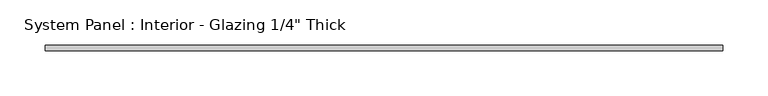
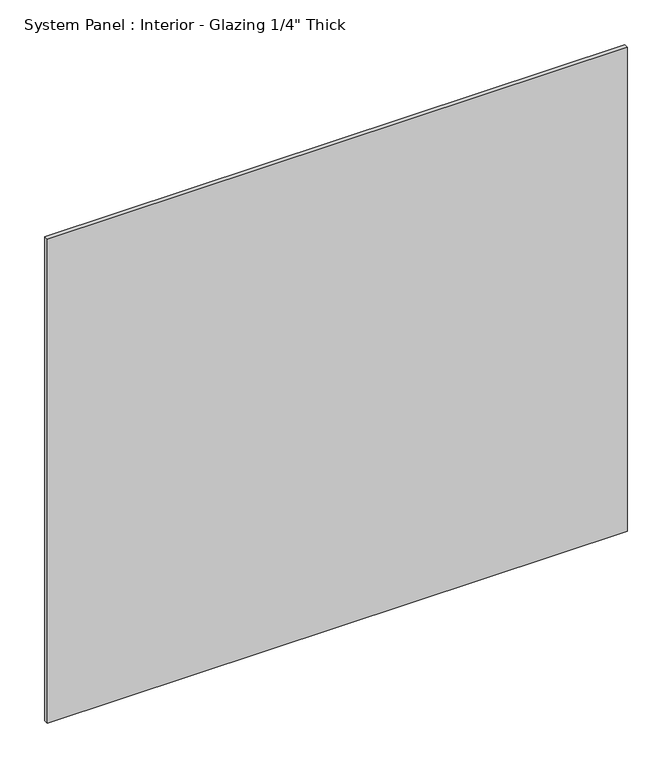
"""IFC4 building model written with IfcOpenShell, lengths in millimetres: plate geometry."""

from ifc_helpers import new_model, si_unit, origin, origin_with_axes, place, context, project, spatial, polyline, outline, extrude, source, transform, mapped, element, save


def plate_fb1597b3(model_context):
    return source(origin(), model_context, "Body", "SweptSolid", [
        extrude(outline(polyline([(376.1493109, -3.175), (-376.1493109, -3.175), (-376.1493109, 3.175), (376.1493109, 3.175), (376.1493109, -3.175)])), origin_with_axes(), (0.0, 0.0, 1.0), 663.7598407),
    ])


if __name__ == "__main__":
    model = new_model("IFC4")
    model_context = context("Model", 3, world=origin())
    ifc_project = project(units=[si_unit("LENGTHUNIT", "METRE", prefix="MILLI")], contexts=[model_context])
    site = spatial("IfcSite", under=ifc_project)
    building = spatial("IfcBuilding", under=site)
    placement = place(None, origin())
    plate_shape = plate_fb1597b3(model_context)
    element("IfcPlate", 1, ObjectType="System Panel : Interior - Glazing 1/4\" Thick", at=placement, inside=building, context=model_context, shape_type="MappedRepresentation", body=[
        mapped(plate_shape, transform((0.0, 0.0, 0.0), x_axis=(1.0, 0.0, 0.0), y_axis=(0.0, 1.0, 0.0), z_axis=(0.0, 0.0, 1.0))),
    ])
    save(model, "model.ifc")
